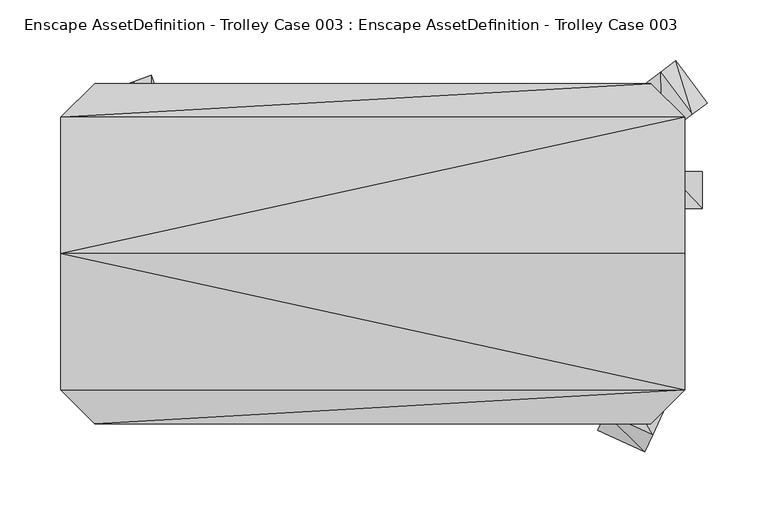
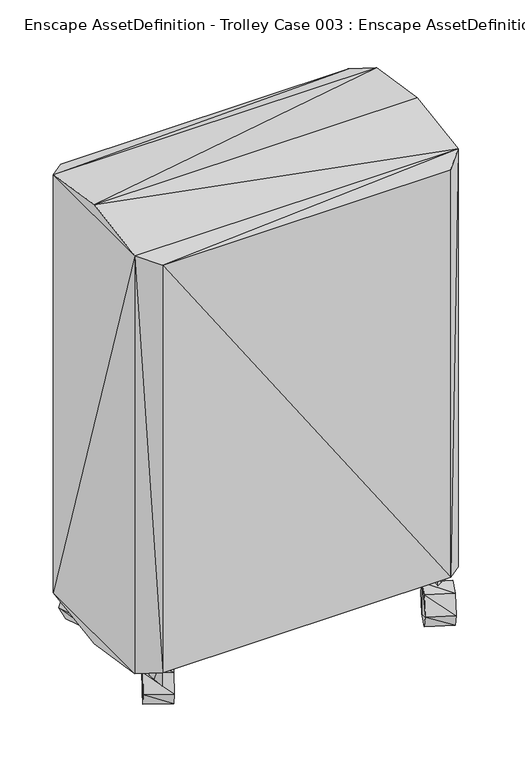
"""IFC4 building model written with IfcOpenShell, lengths in millimetres: geographic element geometry, Enscape AssetDefinition - Trolley Case 003 : Enscape AssetDefinition - Trolley Case 003."""

import ifcopenshell
import ifcopenshell.guid

model = None  # the IFC model being written
_history = None  # IfcOwnerHistory: only IFC2X3 demands one
_inside = {}  # id of a spatial element -> (the spatial element, [elements in it])
_under = {}  # id of a project, library or spatial element -> (it, [spatial elements below it])
_declared = {}  # id of a project -> (the project, [libraries it declares])
_typed = {}  # id of a type object -> (the type object, [elements of that type])
_made_of = {}  # id of a material, layer set ... -> (it, [elements and type objects made of it])


def new_model(schema):
    """Start an empty IFC model of exactly this schema.

    Asked for "IFC4X3", IfcOpenShell would pick the latest addendum, in which some entities
    have other attributes; the version numbers below select the first issue.
    IFC2X3 requires an IfcOwnerHistory on every rooted entity: one is made here for all.
    """
    global model, _history
    if schema == "IFC4X3":
        model = ifcopenshell.file(schema_version=(4, 3, 0, 0))
    else:
        model = ifcopenshell.file(schema=schema)
    _inside.clear()
    _under.clear()
    _declared.clear()
    _typed.clear()
    _made_of.clear()
    _history = None
    if model.schema == "IFC2X3":
        org = make("IfcOrganization", Name="unknown")
        user = make(
            "IfcPersonAndOrganization",
            ThePerson=make("IfcPerson", FamilyName="unknown"),
            TheOrganization=org,
        )
        app = make(
            "IfcApplication",
            ApplicationDeveloper=org,
            Version="unknown",
            ApplicationFullName="unknown",
            ApplicationIdentifier="unknown",
        )
        _history = make(
            "IfcOwnerHistory",
            OwningUser=user,
            OwningApplication=app,
            ChangeAction="ADDED",
            CreationDate=0,
        )
    return model


def make(cls, **values):
    """One entity of the class cls with the attributes given. An attribute that is None is left unset."""
    return model.create_entity(
        cls, **{name: value for name, value in values.items() if value is not None}
    )


def rooted(cls, **values):
    """An entity with a GlobalId (a new one), such as an element, a storey or a relation."""
    return make(cls, GlobalId=ifcopenshell.guid.new(), OwnerHistory=_history, **values)


def si_unit(unit_type, name, prefix=None):
    """IfcSIUnit, for example si_unit("LENGTHUNIT", "METRE", prefix="MILLI")."""
    return make("IfcSIUnit", UnitType=unit_type, Prefix=prefix, Name=name)


def assignment(units):
    """IfcUnitAssignment: the units of a project."""
    return None if units is None else make("IfcUnitAssignment", Units=units)


def point(xyz):
    """IfcCartesianPoint."""
    return None if xyz is None else make("IfcCartesianPoint", Coordinates=xyz)


def direction(xyz):
    """IfcDirection."""
    return None if xyz is None else make("IfcDirection", DirectionRatios=xyz)


def frame(location, z_axis=None, x_axis=None):
    """IfcAxis2Placement3D, a coordinate frame: its origin and axes. An axis left out is left unset."""
    return make(
        "IfcAxis2Placement3D",
        Location=point(location),
        Axis=direction(z_axis),
        RefDirection=direction(x_axis),
    )


def origin():
    """The frame at (0, 0, 0) with its axes left unset."""
    return frame((0.0, 0.0, 0.0))


def place(relative_to, where):
    """IfcLocalPlacement: puts the frame where relative to a parent placement (None: the world)."""
    return make(
        "IfcLocalPlacement", PlacementRelTo=relative_to, RelativePlacement=where
    )


def context(
    kind, dimensions, precision=None, world=None, true_north=None, identifier=None
):
    """IfcGeometricRepresentationContext, for example the 3D "Model" context."""
    return make(
        "IfcGeometricRepresentationContext",
        ContextIdentifier=identifier,
        ContextType=kind,
        CoordinateSpaceDimension=dimensions,
        Precision=precision,
        WorldCoordinateSystem=world,
        TrueNorth=true_north,
    )


def project(units=None, contexts=None):
    """IfcProject with its units and contexts."""
    return rooted(
        "IfcProject",
        Name="project",
        RepresentationContexts=contexts,
        UnitsInContext=assignment(units),
    )


def spatial(cls, under=None, at=None, **own):
    """A site, building, storey or space (cls), placed at a placement, below another one or the project."""
    s = rooted(cls, ObjectPlacement=at, **own)
    if under is not None:
        _under.setdefault(under.id(), (under, []))[1].append(s)
    return s


def faces_of(points, faces, orient=None, outer=None):
    """IfcFace entities. A face is a list of loops; a loop is a list of indices into points, from 0.

    orient and outer hold one flag for each loop. By default every Orientation is true, the
    first loop of a face is its IfcFaceOuterBound and the others are IfcFaceBound.
    """
    made = []
    for i, loops in enumerate(faces):
        bounds = []
        for j, loop in enumerate(loops):
            is_outer = j == 0 if outer is None else outer[i][j]
            bounds.append(
                make(
                    "IfcFaceOuterBound" if is_outer else "IfcFaceBound",
                    Bound=make("IfcPolyLoop", Polygon=[points[k] for k in loop]),
                    Orientation=True if orient is None else orient[i][j],
                )
            )
        made.append(make("IfcFace", Bounds=bounds))
    return made


def faceted_brep(points, faces, orient=None, outer=None, voids=None):
    """IfcFacetedBrep: a solid bounded by flat faces; with voids (closed shells), ...WithVoids."""
    shared = [point(p) for p in points]
    hull = make("IfcClosedShell", CfsFaces=faces_of(shared, faces, orient, outer))
    if voids is None:
        return make("IfcFacetedBrep", Outer=hull)
    return make(
        "IfcFacetedBrepWithVoids",
        Outer=hull,
        Voids=[
            make(cls, CfsFaces=faces_of(shared, fs, o, b)) for cls, fs, o, b in voids
        ],
    )


def shape(context_of_items, identifier, shape_type, items):
    """IfcShapeRepresentation: the items that make up one representation, for example the "Body"."""
    return make(
        "IfcShapeRepresentation",
        ContextOfItems=context_of_items,
        RepresentationIdentifier=identifier,
        RepresentationType=shape_type,
        Items=items,
    )


def source(mapping_origin, context_of_items, identifier, shape_type, items):
    """IfcRepresentationMap: a shape defined once, which mapped items show again and again."""
    return make(
        "IfcRepresentationMap",
        MappingOrigin=mapping_origin,
        MappedRepresentation=shape(context_of_items, identifier, shape_type, items),
    )


def transform(
    local_origin,
    x_axis=None,
    y_axis=None,
    z_axis=None,
    scale=None,
    scale2=None,
    scale3=None,
    uniform=True,
):
    """IfcCartesianTransformationOperator3D, or its non-uniform kind. x_axis, y_axis, z_axis: its Axis1, 2, 3."""
    if uniform:
        return make(
            "IfcCartesianTransformationOperator3D",
            Axis1=direction(x_axis),
            Axis2=direction(y_axis),
            LocalOrigin=point(local_origin),
            Scale=scale,
            Axis3=direction(z_axis),
        )
    return make(
        "IfcCartesianTransformationOperator3DnonUniform",
        Axis1=direction(x_axis),
        Axis2=direction(y_axis),
        LocalOrigin=point(local_origin),
        Scale=scale,
        Axis3=direction(z_axis),
        Scale2=scale2,
        Scale3=scale3,
    )


def mapped(mapping_source, mapping_target):
    """IfcMappedItem: shows the shape of a source again, moved by a transform."""
    return make(
        "IfcMappedItem", MappingSource=mapping_source, MappingTarget=mapping_target
    )


def made_of(thing, what):
    """Note that an element or type object is made of a material, layer set ...; save() writes the relation."""
    if what is not None:
        _made_of.setdefault(what.id(), (what, []))[1].append(thing)
    return thing


def element(
    cls,
    number,
    at=None,
    inside=None,
    cuts=None,
    type_object=None,
    material=None,
    context=None,
    identifier="Body",
    shape_type=None,
    held_by="IfcProductDefinitionShape",
    body=None,
    shapes=None,
    **own,
):
    """One element of the class cls, such as IfcWall. Its Tag is "e" and its number.

    at: its placement. inside: the storey or other place that contains it. cuts: it is an
    opening in that element (IfcRelVoidsElement). A single representation is given by context,
    identifier, shape_type and body (its items); several are given by shapes. held_by: the class
    of the entity that holds the representations. save() writes the other relations.
    """
    e = rooted(cls, Tag="e%d" % number, ObjectPlacement=at, **own)
    if body is not None:
        shapes = [shape(context, identifier, shape_type, body)]
    if shapes is not None:
        e.Representation = make(held_by, Representations=shapes)
    if inside is not None:
        _inside.setdefault(inside.id(), (inside, []))[1].append(e)
    if cuts is not None:
        rooted(
            "IfcRelVoidsElement", RelatingBuildingElement=cuts, RelatedOpeningElement=e
        )
    if type_object is not None:
        _typed.setdefault(type_object.id(), (type_object, []))[1].append(e)
    return made_of(e, material)


def aggregate(whole, parts):
    """IfcRelAggregates: a whole, such as a stair, and the parts it consists of."""
    return rooted("IfcRelAggregates", RelatingObject=whole, RelatedObjects=parts)


def save(model, path):
    """Write the relations noted so far, then the file.

    IfcRelAggregates (storeys below a building ...), IfcRelContainedInSpatialStructure (elements
    in a storey), IfcRelDefinesByType, IfcRelAssociatesMaterial and IfcRelDeclares: one each for
    every whole, place, type object, material and project.
    """
    for whole, parts in _under.values():
        aggregate(whole, parts)
    for where, things in _inside.values():
        rooted(
            "IfcRelContainedInSpatialStructure",
            RelatedElements=things,
            RelatingStructure=where,
        )
    for kind, things in _typed.values():
        rooted("IfcRelDefinesByType", RelatedObjects=things, RelatingType=kind)
    for what, things in _made_of.values():
        rooted("IfcRelAssociatesMaterial", RelatedObjects=things, RelatingMaterial=what)
    for by, libraries in _declared.values():
        rooted("IfcRelDeclares", RelatingContext=by, RelatedDefinitions=libraries)
    model.write(path)


def enscape_assetdefinition_trolley_case_003_enscape_f0869f00(model_context):
    return source(origin(), model_context, "Body", "Brep", [
        faceted_brep([(-260.2963448, -11.5327239, 784.7432494), (252.7648509, -123.6567572, 766.7090893), (252.7648509, -11.5327239, 784.7432494), (-260.2963448, -123.6567572, 766.7090893), (252.7648509, 100.5913168, 766.7090893), (-232.4115932, -151.5415162, 757.9645514), (224.8811126, -151.5415162, 757.9645514), (252.7648509, 100.5913168, 65.5341148), (252.7648509, -123.6567572, 65.5341148), (224.8811126, -151.5415162, 74.2796585), (-260.2963448, 100.5913168, 766.7090893), (224.8811126, 128.4760535, 757.9645514), (-232.4115932, 128.4760535, 757.9645514), (-260.2963448, 100.5913168, 65.5341148), (-232.4115932, 128.4760535, 74.2796585), (224.8811126, 128.4760535, 74.2796585), (-260.2963448, -123.6567572, 65.5341148), (-260.2963448, -11.5327239, 47.4999808), (252.7648509, -11.5327239, 47.4999808), (-232.4115932, -151.5415162, 74.2796585)], [[[0, 1, 2]], [[1, 0, 3]], [[1, 4, 2]], [[1, 5, 6]], [[5, 1, 3]], [[7, 1, 8]], [[1, 7, 4]], [[9, 1, 6]], [[1, 9, 8]], [[4, 0, 2]], [[0, 4, 10]], [[10, 3, 0]], [[10, 11, 12]], [[11, 10, 4]], [[13, 3, 10]], [[12, 13, 10]], [[14, 11, 15]], [[11, 14, 12]], [[4, 15, 11]], [[13, 12, 14]], [[15, 13, 14]], [[3, 13, 16]], [[7, 17, 13]], [[17, 16, 13]], [[13, 15, 7]], [[15, 4, 7]], [[17, 7, 18]], [[18, 7, 8]], [[17, 8, 16]], [[8, 17, 18]], [[19, 3, 16]], [[8, 19, 16]], [[3, 19, 5]], [[19, 8, 9]], [[9, 5, 19]], [[5, 9, 6]]]),
        faceted_brep([(238.4549677, 25.4976004, 509.3889832), (238.4549677, 56.1255179, 315.1767552), (238.4549677, 25.4976004, 315.1767552), (238.4549677, 56.1255179, 509.3889832), (267.2977746, 56.1255179, 340.1133418), (267.2977746, 56.1255179, 492.082864), (267.2977746, 25.4976004, 340.1133418), (267.2977746, 25.4976004, 492.082864)], [[[0, 1, 2]], [[1, 0, 3]], [[4, 2, 1]], [[1, 5, 4]], [[5, 1, 3]], [[6, 0, 2]], [[2, 4, 6]], [[0, 6, 7]], [[7, 3, 0]], [[3, 7, 5]], [[7, 4, 5]], [[4, 7, 6]]]),
        faceted_brep([(239.364028, -132.7563375, 52.5062941), (239.364028, -132.7563375, -0.7660481), (245.7774282, -118.7794507, 25.8706231), (220.1228142, -174.6879667, 25.8706231), (226.5362144, -160.7110947, -0.7660481), (200.501591, -114.923209, -0.7660481), (187.6737624, -142.8779662, -0.7660481), (206.9149911, -100.9463295, 25.8696247), (226.5362144, -160.7110947, 52.5062941), (200.501591, -114.923209, 52.5062941), (181.2603772, -156.8548381, 25.8696247), (187.6737624, -142.8779662, 52.5062941)], [[[0, 1, 2]], [[3, 1, 0]], [[3, 4, 1]], [[5, 2, 1]], [[6, 1, 4]], [[1, 6, 5]], [[7, 0, 2]], [[2, 5, 7]], [[3, 0, 8]], [[9, 8, 0]], [[0, 7, 9]], [[5, 9, 7]], [[5, 10, 9]], [[5, 6, 10]], [[4, 10, 6]], [[10, 4, 3]], [[11, 3, 8]], [[3, 11, 10]], [[8, 9, 11]], [[9, 10, 11]]]),
        faceted_brep([(215.2325064, -114.3301725, 84.0582773), (231.7275554, -123.8537654, 19.5252243), (215.2325064, -114.3301725, 19.5252243), (231.7275554, -123.8537654, 84.0582773), (215.2325064, -133.3773732, 19.5252243), (220.7308412, -123.8537654, 19.5252243), (215.2325064, -133.3773732, 84.0582773)], [[[0, 1, 2]], [[1, 0, 3]], [[3, 4, 1]], [[5, 2, 1]], [[5, 1, 4]], [[6, 2, 4]], [[2, 6, 0]], [[5, 4, 2]], [[0, 6, 3]], [[4, 3, 6]]]),
        faceted_brep([(258.9862347, 103.2414734, 52.5062941), (258.9862347, 103.2414734, -0.7660481), (271.2940276, 112.463057, 25.8706231), (222.0659405, 75.576745, 25.8706231), (234.3727052, 84.7983137, -0.7660481), (232.983619, 137.9436553, -0.7660481), (208.3700597, 119.5004955, -0.7660481), (245.2903986, 147.1652389, 25.8696247), (234.3727052, 84.7983137, 52.5062941), (232.983619, 137.9436553, 52.5062941), (196.0633099, 110.2789193, 25.8696247), (208.3700597, 119.5004955, 52.5062941)], [[[0, 1, 2]], [[3, 1, 0]], [[3, 4, 1]], [[5, 2, 1]], [[6, 1, 4]], [[1, 6, 5]], [[7, 0, 2]], [[2, 5, 7]], [[3, 0, 8]], [[9, 8, 0]], [[0, 7, 9]], [[5, 9, 7]], [[5, 10, 9]], [[5, 6, 10]], [[4, 10, 6]], [[10, 4, 3]], [[11, 3, 8]], [[3, 11, 10]], [[8, 9, 11]], [[9, 10, 11]]]),
        faceted_brep([(218.0146873, 109.8548993, 84.0582773), (230.7204753, 95.6659988, 19.5252243), (218.0146873, 109.8548993, 19.5252243), (230.7204753, 95.6659988, 84.0582773), (212.0793015, 91.7557627, 19.5252243), (220.2718258, 99.0922153, 19.5252243), (212.0793015, 91.7557627, 84.0582773)], [[[0, 1, 2]], [[1, 0, 3]], [[3, 4, 1]], [[5, 2, 1]], [[5, 1, 4]], [[6, 2, 4]], [[2, 6, 0]], [[5, 4, 2]], [[0, 6, 3]], [[4, 3, 6]]]),
        faceted_brep([(-240.2460724, -110.9959632, 52.5062941), (-240.2460724, -110.9959632, -0.7660481), (-247.5535274, -124.5268211, 25.8706231), (-218.3216959, -70.4024211, 25.8706231), (-225.6301492, -83.9332715, -0.7660481), (-202.6237249, -131.3152462, -0.7660481), (-188.0078018, -104.2525396, -0.7660481), (-209.9311799, -144.8460817, 25.8696247), (-225.6301492, -83.9332715, 52.5062941), (-202.6237249, -131.3152462, 52.5062941), (-180.6993335, -90.7216892, 25.8696247), (-188.0078018, -104.2525396, 52.5062941)], [[[0, 1, 2]], [[3, 1, 0]], [[3, 4, 1]], [[5, 2, 1]], [[6, 1, 4]], [[1, 6, 5]], [[7, 0, 2]], [[2, 5, 7]], [[3, 0, 8]], [[9, 8, 0]], [[0, 7, 9]], [[5, 9, 7]], [[5, 10, 9]], [[5, 6, 10]], [[4, 10, 6]], [[10, 4, 3]], [[11, 3, 8]], [[3, 11, 10]], [[8, 9, 11]], [[9, 10, 11]]]),
        faceted_brep([(-233.4876508, -117.4043715, 84.0582773), (-214.6284729, -114.7342026, 19.5252243), (-233.4876508, -117.4043715, 19.5252243), (-214.6284729, -114.7342026, 84.0582773), (-221.7459232, -132.4013025, 19.5252243), (-223.2870013, -121.5136275, 19.5252243), (-221.7459232, -132.4013025, 84.0582773)], [[[0, 1, 2]], [[1, 0, 3]], [[3, 4, 1]], [[5, 2, 1]], [[5, 1, 4]], [[6, 2, 4]], [[2, 6, 0]], [[5, 4, 2]], [[0, 6, 3]], [[4, 3, 6]]]),
        faceted_brep([(-229.290396, 119.7605133, 52.5062941), (-229.290396, 119.7605133, -0.7660481), (-243.7472939, 114.5161837, 25.8706231), (-185.9196573, 135.4925036, 25.8706231), (-200.3765702, 130.2481741, -0.7660481), (-214.710474, 79.5639977, -0.7660481), (-185.7966632, 90.0526494, -0.7660481), (-229.1673869, 74.3206665, 25.8696247), (-200.3765702, 130.2481741, 52.5062941), (-214.710474, 79.5639977, 52.5062941), (-171.3397503, 95.2959806, 25.8696247), (-185.7966632, 90.0526494, 52.5062941)], [[[0, 1, 2]], [[3, 1, 0]], [[3, 4, 1]], [[5, 2, 1]], [[6, 1, 4]], [[1, 6, 5]], [[7, 0, 2]], [[2, 5, 7]], [[3, 0, 8]], [[9, 8, 0]], [[0, 7, 9]], [[5, 9, 7]], [[5, 10, 9]], [[5, 6, 10]], [[4, 10, 6]], [[10, 4, 3]], [[11, 3, 8]], [[3, 11, 10]], [[8, 9, 11]], [[9, 10, 11]]]),
        faceted_brep([(-229.3533981, 90.606682, 84.0582773), (-226.2091786, 109.392859, 19.5252243), (-229.3533981, 90.606682, 19.5252243), (-226.2091786, 109.392859, 84.0582773), (-211.513266, 97.2771049, 19.5252243), (-222.3589569, 99.0922153, 19.5252243), (-211.513266, 97.2771049, 84.0582773)], [[[0, 1, 2]], [[1, 0, 3]], [[3, 4, 1]], [[5, 2, 1]], [[5, 1, 4]], [[6, 2, 4]], [[2, 6, 0]], [[5, 4, 2]], [[0, 6, 3]], [[4, 3, 6]]]),
    ])


if __name__ == "__main__":
    model = new_model("IFC4")
    model_context = context("Model", 3, world=origin())
    ifc_project = project(units=[si_unit("LENGTHUNIT", "METRE", prefix="MILLI")], contexts=[model_context])
    site = spatial("IfcSite", under=ifc_project)
    building = spatial("IfcBuilding", under=site)
    placement = place(None, origin())
    enscape_assetdefinition_trolley_case_003_enscape_shape = enscape_assetdefinition_trolley_case_003_enscape_f0869f00(model_context)
    element("IfcGeographicElement", 1, ObjectType="Enscape AssetDefinition - Trolley Case 003 : Enscape AssetDefinition - Trolley Case 003", at=placement, inside=building, context=model_context, shape_type="MappedRepresentation", body=[
        mapped(enscape_assetdefinition_trolley_case_003_enscape_shape, transform((0.0, 0.0, 0.0), x_axis=(1.0, 0.0, 0.0), y_axis=(0.0, 1.0, 0.0), z_axis=(0.0, 0.0, 1.0))),
    ])
    save(model, "model.ifc")
